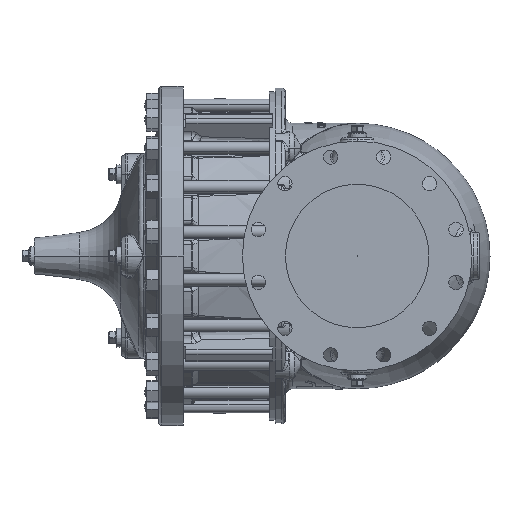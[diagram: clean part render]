
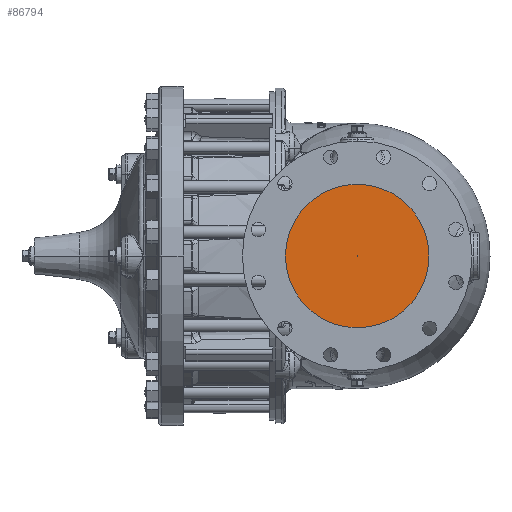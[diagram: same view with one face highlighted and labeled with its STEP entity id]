
A CAD part, left-side view. The second image highlights one B-rep face of the part: STEP entity #86794.
In plain terms, the highlighted planar face has unit normal (-1, 0, 0).
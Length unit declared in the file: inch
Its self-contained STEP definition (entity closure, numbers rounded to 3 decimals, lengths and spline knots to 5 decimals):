
#1262 = EDGE_CURVE ( 'NONE', #1335, #83738, #78646, .T. ) ;
#1335 = VERTEX_POINT ( 'NONE', #34530 ) ;
#1725 = CARTESIAN_POINT ( 'NONE',  ( -12.375, 0., -5.001 ) ) ;
#2378 = CARTESIAN_POINT ( 'NONE',  ( -12.375, 0., 0.001 ) ) ;
#3094 = VERTEX_POINT ( 'NONE', #45578 ) ;
#12790 = FACE_OUTER_BOUND ( 'NONE', #24825, .T. ) ;
#13487 = CARTESIAN_POINT ( 'NONE',  ( -12.375, 0., 0. ) ) ;
#13541 = EDGE_CURVE ( 'NONE', #83738, #1335, #86229, .T. ) ;
#18497 = AXIS2_PLACEMENT_3D ( 'NONE', #61941, #63273, #41618 ) ;
#19101 = CARTESIAN_POINT ( 'NONE',  ( -12.375, 0., -0.001 ) ) ;
#20046 = CARTESIAN_POINT ( 'NONE',  ( -12.375, 0., 0. ) ) ;
#24825 = EDGE_LOOP ( 'NONE', ( #64349, #31122 ) ) ;
#25691 = DIRECTION ( 'NONE',  ( 1., 0., 0. ) ) ;
#26320 = DIRECTION ( 'NONE',  ( -1., 0., 0. ) ) ;
#27970 = EDGE_CURVE ( 'NONE', #82907, #3094, #53538, .T. ) ;
#31122 = ORIENTED_EDGE ( 'NONE', *, *, #13541, .F. ) ;
#33120 = AXIS2_PLACEMENT_3D ( 'NONE', #20046, #53076, #54834 ) ;
#34530 = CARTESIAN_POINT ( 'NONE',  ( -12.375, 0., 4.999 ) ) ;
#37900 = EDGE_CURVE ( 'NONE', #3094, #82907, #69530, .T. ) ;
#40747 = FACE_BOUND ( 'NONE', #67210, .T. ) ;
#41618 = DIRECTION ( 'NONE',  ( 0., 0., -1. ) ) ;
#44664 = CARTESIAN_POINT ( 'NONE',  ( -12.375, 0., -0.001 ) ) ;
#45578 = CARTESIAN_POINT ( 'NONE',  ( -12.375, 0., -0.001 ) ) ;
#46640 = DIRECTION ( 'NONE',  ( 0., 0., -1. ) ) ;
#51205 = AXIS2_PLACEMENT_3D ( 'NONE', #44664, #72203, #60755 ) ;
#53076 = DIRECTION ( 'NONE',  ( 1., 0., 0. ) ) ;
#53538 = CIRCLE ( 'NONE', #33120, 0.001 ) ;
#54834 = DIRECTION ( 'NONE',  ( 0., 0., 1. ) ) ;
#60299 = AXIS2_PLACEMENT_3D ( 'NONE', #19101, #26320, #46640 ) ;
#60755 = DIRECTION ( 'NONE',  ( 0., 0., -1. ) ) ;
#61941 = CARTESIAN_POINT ( 'NONE',  ( -12.375, 0., -0.001 ) ) ;
#62301 = AXIS2_PLACEMENT_3D ( 'NONE', #13487, #25691, #68550 ) ;
#63273 = DIRECTION ( 'NONE',  ( 1., 0., 0. ) ) ;
#64349 = ORIENTED_EDGE ( 'NONE', *, *, #1262, .F. ) ;
#64426 = ORIENTED_EDGE ( 'NONE', *, *, #37900, .T. ) ;
#67210 = EDGE_LOOP ( 'NONE', ( #85496, #64426 ) ) ;
#68550 = DIRECTION ( 'NONE',  ( 0., 0., 1. ) ) ;
#69530 = CIRCLE ( 'NONE', #62301, 0.001 ) ;
#72203 = DIRECTION ( 'NONE',  ( 1., 0., 0. ) ) ;
#78646 = CIRCLE ( 'NONE', #51205, 5. ) ;
#82907 = VERTEX_POINT ( 'NONE', #2378 ) ;
#83738 = VERTEX_POINT ( 'NONE', #1725 ) ;
#85496 = ORIENTED_EDGE ( 'NONE', *, *, #27970, .T. ) ;
#86229 = CIRCLE ( 'NONE', #18497, 5. ) ;
#86794 = ADVANCED_FACE ( 'NONE', ( #12790, #40747 ), #89040, .T. ) ;
#89040 = PLANE ( 'NONE',  #60299 ) ;
